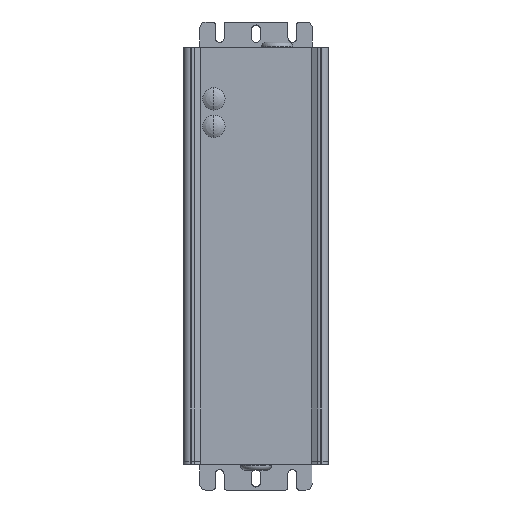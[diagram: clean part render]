
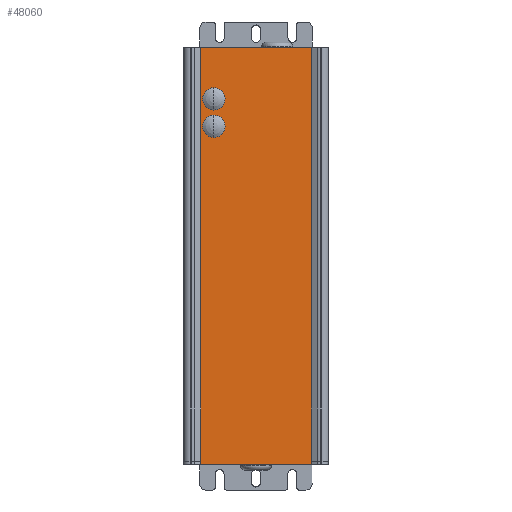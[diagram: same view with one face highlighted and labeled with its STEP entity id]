
A CAD part, left-side view. The second image highlights one B-rep face of the part: STEP entity #48060.
In plain terms, the highlighted planar face has unit normal (-1, 0, 0) as drawn and (0, 1, 0) by its records, which use the part's own axes.
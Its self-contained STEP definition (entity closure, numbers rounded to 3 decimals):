
#10400=CARTESIAN_POINT('',(2003.285,-2415.053,
23.4));
#10410=VERTEX_POINT('',#10400);
#10440=CARTESIAN_POINT('',(0.,-2415.053,23.4));
#10450=DIRECTION('',(1.,0.,0.));
#10460=VECTOR('',#10450,1.);
#10470=LINE('',#10440,#10460);
#10480=CARTESIAN_POINT('',(1951.285,-2415.053,
23.4));
#10490=VERTEX_POINT('',#10480);
#10500=EDGE_CURVE('',#10490,#10410,#10470,.T.);
#19730=CARTESIAN_POINT('',(1951.285,-2415.053,23.24
));
#19740=DIRECTION('',(0.,0.,1.));
#19750=VECTOR('',#19740,1.);
#19760=LINE('',#19730,#19750);
#19770=CARTESIAN_POINT('',(1951.285,-2415.053,25.));
#19780=VERTEX_POINT('',#19770);
#19790=EDGE_CURVE('',#10490,#19780,#19760,.T.);
#20390=CARTESIAN_POINT('',(2003.285,-2415.053,25.));
#20400=VERTEX_POINT('',#20390);
#20430=CARTESIAN_POINT('',(2003.285,-2415.053,23.24
));
#20440=DIRECTION('',(0.,0.,1.));
#20450=VECTOR('',#20440,1.);
#20460=LINE('',#20430,#20450);
#20470=EDGE_CURVE('',#10410,#20400,#20460,.T.);
#43960=CARTESIAN_POINT('',(1951.235,-2415.053,25.));
#43970=VERTEX_POINT('',#43960);
#44190=CARTESIAN_POINT('',(0.,-2415.053,25.));
#44200=DIRECTION('',(-1.,0.,0.));
#44210=VECTOR('',#44200,1.);
#44220=LINE('',#44190,#44210);
#44230=EDGE_CURVE('',#19780,#43970,#44220,.T.);
#44540=CARTESIAN_POINT('',(2003.235,-2415.053,25.));
#44550=VERTEX_POINT('',#44540);
#44580=CARTESIAN_POINT('',(0.,-2415.053,25.));
#44590=DIRECTION('',(-1.,0.,0.));
#44600=VECTOR('',#44590,1.);
#44610=LINE('',#44580,#44600);
#44620=EDGE_CURVE('',#20400,#44550,#44610,.T.);
#47720=CARTESIAN_POINT('',(1951.235,-2415.053,15.8));
#47730=DIRECTION('',(0.,1.,0.));
#47740=DIRECTION('',(1.,0.,0.));
#47750=AXIS2_PLACEMENT_3D('',#47720,#47730,#47740);
#47760=PLANE('',#47750);
#47770=ORIENTED_EDGE('',*,*,#19790,.T.);
#47780=ORIENTED_EDGE('',*,*,#10500,.F.);
#47790=ORIENTED_EDGE('',*,*,#20470,.F.);
#47800=ORIENTED_EDGE('',*,*,#44620,.F.);
#47810=CARTESIAN_POINT('',(2003.235,-2415.053,15.8));
#47820=DIRECTION('',(0.,0.,1.));
#47830=VECTOR('',#47820,1.);
#47840=LINE('',#47810,#47830);
#47850=CARTESIAN_POINT('',(2003.235,-2415.053,
219.4));
#47860=VERTEX_POINT('',#47850);
#47870=EDGE_CURVE('',#44550,#47860,#47840,.T.);
#47880=ORIENTED_EDGE('',*,*,#47870,.F.);
#47890=CARTESIAN_POINT('',(3954.519,-2415.053,
219.4));
#47900=DIRECTION('',(-1.,0.,0.));
#47910=VECTOR('',#47900,1.);
#47920=LINE('',#47890,#47910);
#47930=CARTESIAN_POINT('',(1951.235,-2415.053,
219.4));
#47940=VERTEX_POINT('',#47930);
#47950=EDGE_CURVE('',#47860,#47940,#47920,.T.);
#47960=ORIENTED_EDGE('',*,*,#47950,.F.);
#47970=CARTESIAN_POINT('',(1951.235,-2415.053,15.8));
#47980=DIRECTION('',(0.,0.,1.));
#47990=VECTOR('',#47980,1.);
#48000=LINE('',#47970,#47990);
#48010=EDGE_CURVE('',#43970,#47940,#48000,.T.);
#48020=ORIENTED_EDGE('',*,*,#48010,.T.);
#48030=ORIENTED_EDGE('',*,*,#44230,.T.);
#48040=EDGE_LOOP('',(#48030,#48020,#47960,#47880,#47800,#47790,#47780,
#47770));
#48050=FACE_OUTER_BOUND('',#48040,.T.);
#48060=ADVANCED_FACE('',(#48050),#47760,.T.);
